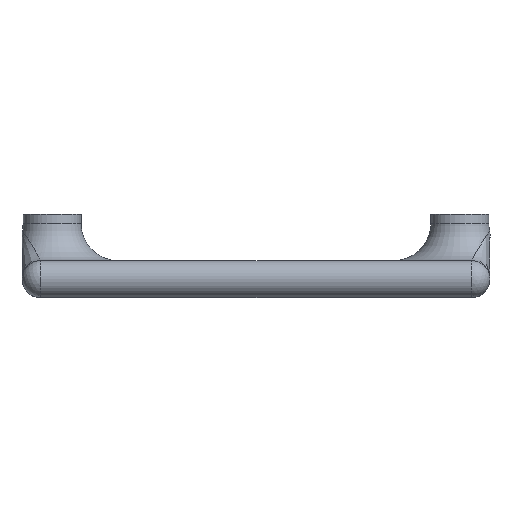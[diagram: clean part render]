
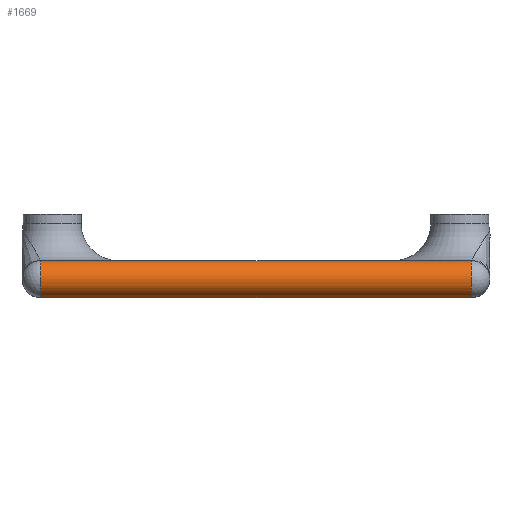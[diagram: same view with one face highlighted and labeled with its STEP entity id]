
A CAD part, front view. The second image highlights one B-rep face of the part: STEP entity #1669.
In plain terms, the highlighted cylindrical face has radius 2 mm (diameter 4 mm), a partial arc.
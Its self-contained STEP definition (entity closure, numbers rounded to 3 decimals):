
#165=FACE_OUTER_BOUND('',#254,.T.);
#254=EDGE_LOOP('',(#1292,#1293,#1294,#1295));
#427=LINE('',#3694,#538);
#428=LINE('',#3696,#539);
#538=VECTOR('',#2207,10.);
#539=VECTOR('',#2210,10.);
#617=CIRCLE('',#1821,2.);
#618=CIRCLE('',#1822,2.);
#773=VERTEX_POINT('',#3169);
#774=VERTEX_POINT('',#3171);
#783=VERTEX_POINT('',#3197);
#784=VERTEX_POINT('',#3199);
#993=EDGE_CURVE('',#774,#773,#617,.T.);
#994=EDGE_CURVE('',#773,#784,#427,.T.);
#995=EDGE_CURVE('',#784,#783,#618,.T.);
#996=EDGE_CURVE('',#783,#774,#428,.T.);
#1292=ORIENTED_EDGE('',*,*,#993,.T.);
#1293=ORIENTED_EDGE('',*,*,#994,.T.);
#1294=ORIENTED_EDGE('',*,*,#995,.T.);
#1295=ORIENTED_EDGE('',*,*,#996,.T.);
#1597=CYLINDRICAL_SURFACE('',#1820,2.);
#1669=ADVANCED_FACE('',(#165),#1597,.T.);
#1820=AXIS2_PLACEMENT_3D('',#3692,#2203,#2204);
#1821=AXIS2_PLACEMENT_3D('',#3693,#2205,#2206);
#1822=AXIS2_PLACEMENT_3D('',#3695,#2208,#2209);
#2203=DIRECTION('center_axis',(1.,0.,0.));
#2204=DIRECTION('ref_axis',(0.,-0.707,0.707));
#2205=DIRECTION('center_axis',(1.,0.,0.));
#2206=DIRECTION('ref_axis',(0.,-1.,0.));
#2207=DIRECTION('',(1.,0.,0.));
#2208=DIRECTION('center_axis',(-1.,0.,0.));
#2209=DIRECTION('ref_axis',(0.,-1.,0.));
#2210=DIRECTION('',(-1.,0.,0.));
#3169=CARTESIAN_POINT('',(-23.25,-45.5,0.));
#3171=CARTESIAN_POINT('',(-23.25,-45.5,4.));
#3197=CARTESIAN_POINT('',(23.25,-45.5,4.));
#3199=CARTESIAN_POINT('',(23.25,-45.5,0.));
#3692=CARTESIAN_POINT('Origin',(-12.625,-45.5,2.));
#3693=CARTESIAN_POINT('Origin',(-23.25,-45.5,2.));
#3694=CARTESIAN_POINT('',(-12.625,-45.5,0.));
#3695=CARTESIAN_POINT('Origin',(23.25,-45.5,2.));
#3696=CARTESIAN_POINT('',(-12.625,-45.5,4.));
